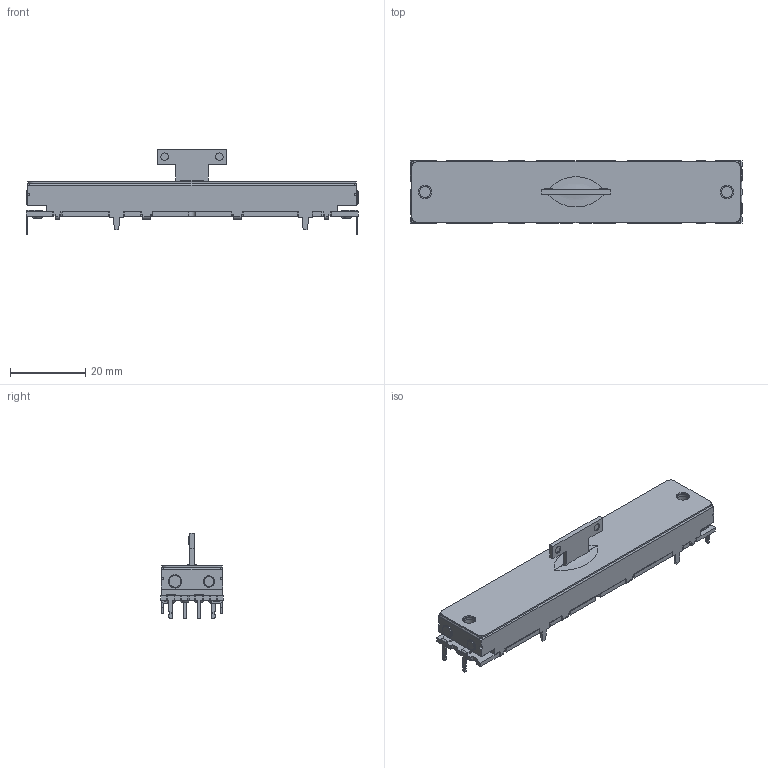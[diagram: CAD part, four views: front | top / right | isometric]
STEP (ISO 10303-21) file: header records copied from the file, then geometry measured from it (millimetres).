
FILE_DESCRIPTION(('FreeCAD Model'),'2;1');
FILE_NAME('Open CASCADE Shape Model','2026-03-31T08:01:14',(''),(''), 'Open CASCADE STEP processor 7.8','FreeCAD','Unknown');
FILE_SCHEMA(('AUTOMOTIVE_DESIGN { 1 0 10303 214 1 1 1 1 }'));
Length unit declared in the file: millimetre
Products named in the file (1): 2DSVA-610XD
Bounding box: 88 x 16.5 x 22.7 mm (x, y, z)
Volume: 12698.4 mm3; surface area: 6618.9 mm2
Topology: 1 solids, 7 shells, 629 faces, 1734 edges, 1134 vertices
Faces by surface type: plane 436, cylinder 169, cone 10, extrusion 6, torus 6, revolution 2
Full cylindrical faces by diameter (mm): 0.5 x6, 1.5 x6, 1.7 x8, 2 x4, 3 x4, 3.5 x4, 4 x2
Entity records: 24046 total; most frequent: CARTESIAN_POINT 4298, ORIENTED_EDGE 3472, DIRECTION 3352, EDGE_CURVE 1734, VECTOR 1306, LINE 1300, VERTEX_POINT 1130, AXIS2_PLACEMENT_3D 1022
